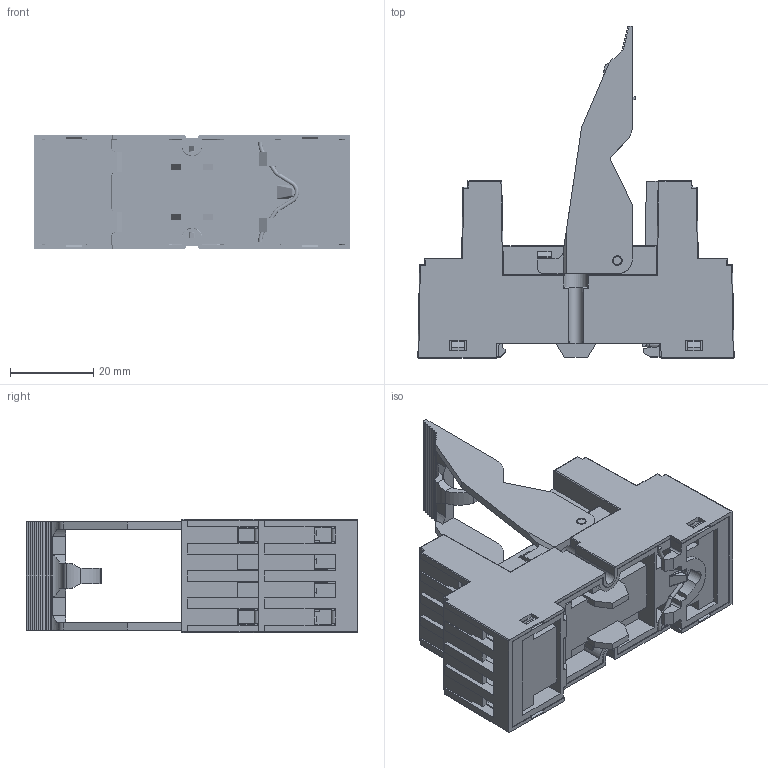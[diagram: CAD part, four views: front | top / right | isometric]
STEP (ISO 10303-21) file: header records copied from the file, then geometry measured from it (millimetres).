
FILE_DESCRIPTION(/* description */ (''),/* implementation_level */ '2;1');
FILE_NAME(/* name */ '18F-2Z-C4.stp',/* time_stamp */ '2019-03-22T13:48:03+08:00',/* author */ (''),/* organization */ (''),/* preprocessor_version */ 'ST-DEVELOPER v16.7',/* originating_system */ 'SIEMENS PLM Software NX 12.0',/* authorisation */ '');
FILE_SCHEMA (('AUTOMOTIVE_DESIGN { 1 0 10303 214 3 1 1 1 }'));
Products named in the file (12): HT8.205.007-3; JinxianKo; HT7.730.074; HT7.730.071; HT7.730.070; HT7.730.067; HT7.730.066; HT7.730.065; M3X10.7; HT7.810.018-1; HT7.814.008; 18F-2Z-C4
Assembly tree (29 placements, depth 2):
  18F-2Z-C4
    HT7.814.008
    HT7.810.018-1
    M3X10.7  x8
    HT7.730.065
    HT7.730.066
    HT7.730.067
    HT7.730.070
    HT7.730.071  x2
    HT7.730.074  x2
    JinxianKo  x10
    HT8.205.007-3
Bounding box: 75.83 x 79.57 x 27.2 mm (x, y, z)
Volume: 31706.4 mm3; surface area: 53144.8 mm2
Topology: 30 solids, 30 shells, 4601 faces, 12889 edges, 8276 vertices
Faces by surface type: plane 3498, cylinder 790, sphere 132, extrusion 90, cone 55, bspline 18, torus 18
Full cylindrical faces by diameter (mm): 1 x8, 1.3 x4, 1.8 x1, 2 x8, 2.18 x2, 2.3 x2, 2.5 x114, 3 x14, 3.15 x8, 3.6 x12, 3.7 x10, 4.5 x1, 4.9 x8, 5.3 x14
Entity records: 121756 total; most frequent: CARTESIAN_POINT 25174, ORIENTED_EDGE 18086, DIRECTION 16553, EDGE_CURVE 9043, VECTOR 7131, LINE 7055, VERTEX_POINT 5933, AXIS2_PLACEMENT_3D 4711
